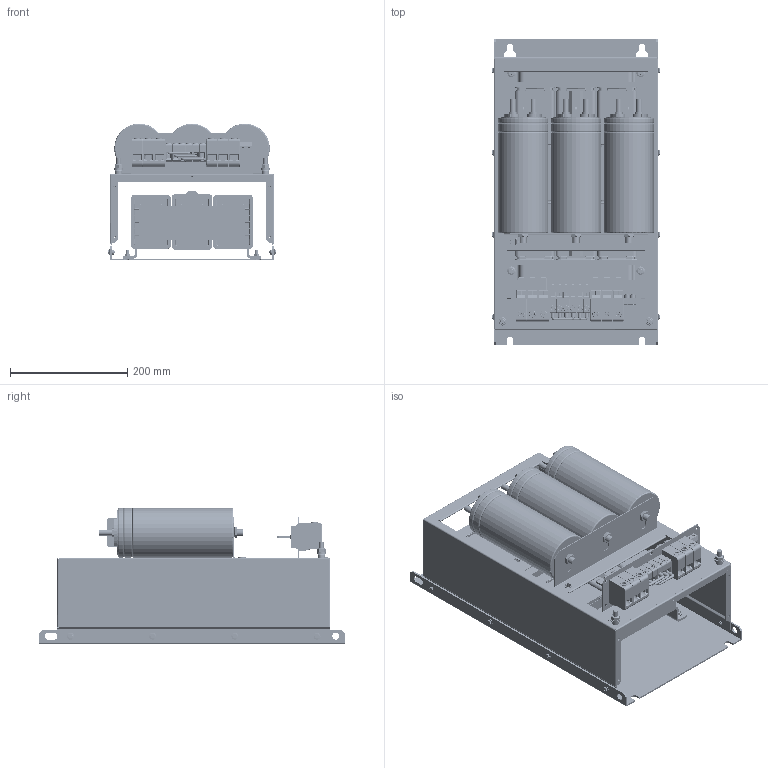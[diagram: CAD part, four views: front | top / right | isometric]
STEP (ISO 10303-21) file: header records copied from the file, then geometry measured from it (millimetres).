
FILE_DESCRIPTION(/* description */ (''),/* implementation_level */ '2;1');
FILE_NAME(/* name */ 'C:\Users\Erika.Jenzer\OneDrive - Schaffner EMV AG\Desktop\Plutus Customer STEP\CUSTOMER IP00 FS C.stp',/* time_stamp */ '2023-05-12T09:00:27+02:00',/* author */ ('erika.jenzer'),/* organization */ (''),/* preprocessor_version */ 'ST-DEVELOPER v18.1',/* originating_system */ 'Autodesk Inventor 2020',/* authorisation */ '');
FILE_SCHEMA (('AUTOMOTIVE_DESIGN { 1 0 10303 214 3 1 1 }'));
Products named in the file (1): CUSTOMER IP00 FS C
Bounding box: 287.14 x 520 x 233 mm (x, y, z)
Volume: 9781165 mm3; surface area: 1607379.5 mm2
Topology: 3 solids, 3 shells, 8631 faces, 21162 edges, 12678 vertices
Faces by surface type: plane 3414, cylinder 3074, bspline 1270, cone 366, torus 315, sphere 192
Full cylindrical faces by diameter (mm): 1 x14, 2.8 x6, 3.242 x8, 3.5 x4, 3.9 x4, 3.92 x4, 4 x2, 4.8 x9, 5 x16, 5.1 x6, 5.5 x13, 5.8 x4, 6 x18, 6.5 x4, 7 x16, 7.323 x2, 7.9 x8, 8 x6, 8.4 x2, 8.7 x4, 9 x6, 9.9 x3, 10 x12, 10.5 x2, 11.4 x2, 11.6 x6, 12 x16, 12.5 x1, 12.65 x2, 12.7 x1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
Entity records: 289227 total; most frequent: CARTESIAN_POINT 82052, ORIENTED_EDGE 41844, DIRECTION 41295, EDGE_CURVE 20922, AXIS2_PLACEMENT_3D 14827, VERTEX_POINT 12678, LINE 11641, VECTOR 11641
